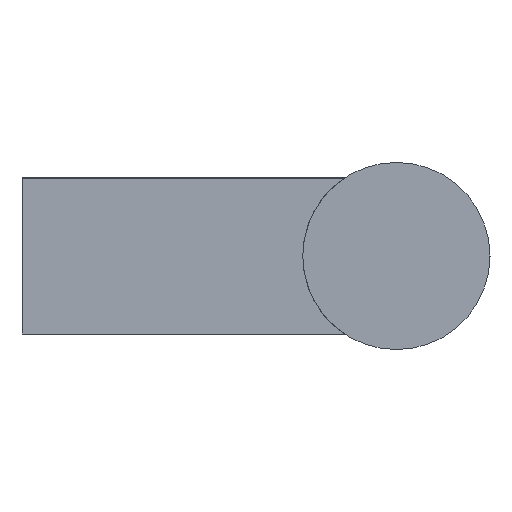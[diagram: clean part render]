
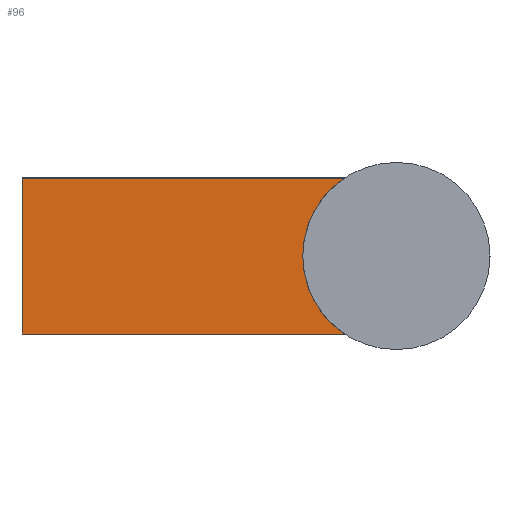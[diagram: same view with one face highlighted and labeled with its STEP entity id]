
A CAD part, left-side view. The second image highlights one B-rep face of the part: STEP entity #96.
In plain terms, the highlighted planar face has unit normal (-1, 0, 0).
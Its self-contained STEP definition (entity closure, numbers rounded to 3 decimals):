
#96 = ADVANCED_FACE( '', ( #184 ), #185, .T. );
#184 = FACE_OUTER_BOUND( '', #256, .T. );
#185 = PLANE( '', #257 );
#256 = EDGE_LOOP( '', ( #381, #382, #383, #384 ) );
#257 = AXIS2_PLACEMENT_3D( '', #385, #386, #387 );
#381 = ORIENTED_EDGE( '', *, *, #413, .F. );
#382 = ORIENTED_EDGE( '', *, *, #396, .T. );
#383 = ORIENTED_EDGE( '', *, *, #425, .F. );
#384 = ORIENTED_EDGE( '', *, *, #431, .F. );
#385 = CARTESIAN_POINT( '', ( -11.999, -25., -5. ) );
#386 = DIRECTION( '', ( -1., 0., 0. ) );
#387 = DIRECTION( '', ( 0., 0., 1. ) );
#396 = EDGE_CURVE( '', #443, #447, #449, .T. );
#413 = EDGE_CURVE( '', #443, #475, #476, .T. );
#425 = EDGE_CURVE( '', #492, #447, #493, .T. );
#431 = EDGE_CURVE( '', #475, #492, #500, .T. );
#443 = VERTEX_POINT( '', #512 );
#447 = VERTEX_POINT( '', #518 );
#449 = LINE( '', #521, #522 );
#475 = VERTEX_POINT( '', #557 );
#476 = CIRCLE( '', #558, 6. );
#492 = VERTEX_POINT( '', #576 );
#493 = LINE( '', #577, #578 );
#500 = LINE( '', #587, #588 );
#512 = CARTESIAN_POINT( '', ( -11.999, -20.683, 5. ) );
#518 = CARTESIAN_POINT( '', ( -11.999, 0., 5. ) );
#521 = CARTESIAN_POINT( '', ( -11.999, -25., 5. ) );
#522 = VECTOR( '', #603, 1000. );
#557 = CARTESIAN_POINT( '', ( -11.999, -20.683, -5. ) );
#558 = AXIS2_PLACEMENT_3D( '', #622, #623, #624 );
#576 = CARTESIAN_POINT( '', ( -11.999, 0., -5. ) );
#577 = CARTESIAN_POINT( '', ( -11.999, 0., -5. ) );
#578 = VECTOR( '', #639, 1000. );
#587 = CARTESIAN_POINT( '', ( -11.999, -25., -5. ) );
#588 = VECTOR( '', #642, 1000. );
#603 = DIRECTION( '', ( 0., 1., 0. ) );
#622 = CARTESIAN_POINT( '', ( -11.999, -24., 0. ) );
#623 = DIRECTION( '', ( -1., 0., 0. ) );
#624 = DIRECTION( '', ( 0., 0., 1. ) );
#639 = DIRECTION( '', ( 0., 0., 1. ) );
#642 = DIRECTION( '', ( 0., 1., 0. ) );
